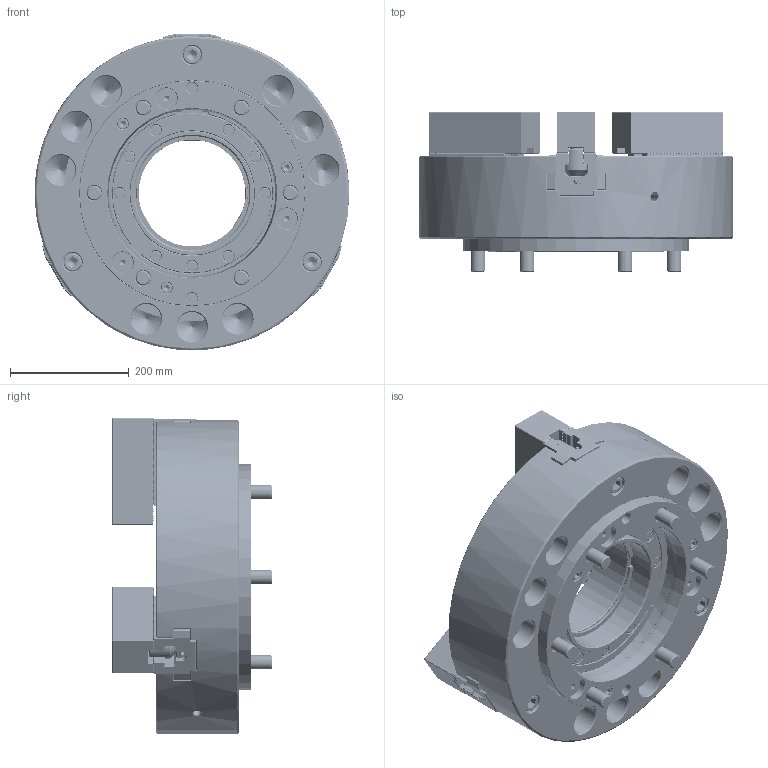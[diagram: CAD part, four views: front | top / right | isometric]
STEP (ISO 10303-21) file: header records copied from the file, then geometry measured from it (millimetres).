
FILE_DESCRIPTION(/* description */ (''),/* implementation_level */ '2;1');
FILE_NAME(/* name */ 'C:\Users\034\Desktop\需重新取代\OP-221-A15.stp',/* time_stamp */ '2024-09-04T11:49:30+08:00',/* author */ ('034'),/* organization */ (''),/* preprocessor_version */ 'ST-DEVELOPER v16.13',/* originating_system */ 'Autodesk Inventor 2018',/* authorisation */ '');
FILE_SCHEMA (('AUTOMOTIVE_DESIGN { 1 0 10303 214 3 1 1 }'));
Products named in the file (1): 零件20
Bounding box: 529.99 x 269.28 x 532.17 mm (x, y, z)
Volume: 27387152.7 mm3; surface area: 1652672.2 mm2
Topology: 1 solids, 42 shells, 6525 faces, 20831 edges, 13349 vertices
Faces by surface type: plane 3805, cylinder 1669, cone 461, bspline 431, torus 120, sphere 39
Full cylindrical faces by diameter (mm): 3 x30, 3.4 x6, 4 x24, 4.5 x6, 4.8 x6, 5.1 x6, 5.2 x3, 6 x9, 7 x6, 7.53 x6, 10 x6, 10.3 x5, 11 x6, 12 x3, 13 x3, 14.1 x11, 17.6 x6, 18 x3, 19 x14, 20 x12, 21 x9, 24 x12, 26 x18, 30 x11, 32 x9, 35.7 x3, 36 x6, 38 x6, 50 x9, 60 x2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
Entity records: 228610 total; most frequent: CARTESIAN_POINT 49371, ORIENTED_EDGE 39504, DIRECTION 34925, EDGE_CURVE 19752, LINE 14077, VECTOR 14077, VERTEX_POINT 12936, AXIS2_PLACEMENT_3D 10424
